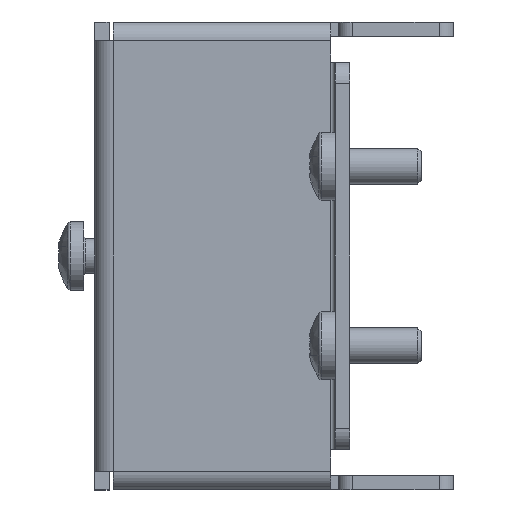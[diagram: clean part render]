
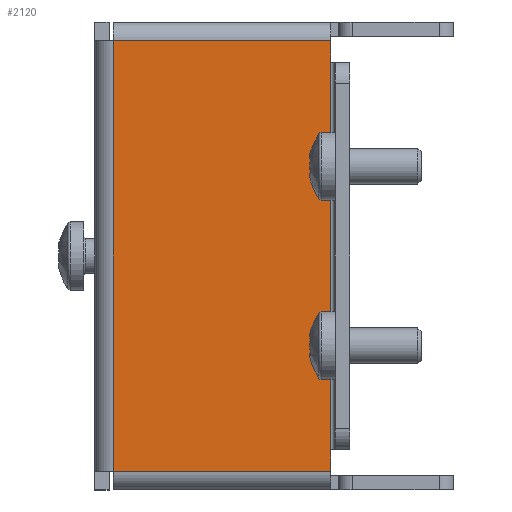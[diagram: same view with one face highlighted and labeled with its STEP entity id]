
A CAD part, left-side view. The second image highlights one B-rep face of the part: STEP entity #2120.
In plain terms, the highlighted planar face has unit normal (-1, 0, 0).
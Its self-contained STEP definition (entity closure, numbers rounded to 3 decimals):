
#16 = LINE ( 'NONE', #927, #1281 ) ;
#142 = VECTOR ( 'NONE', #2471, 1000. ) ;
#158 = LINE ( 'NONE', #2056, #1461 ) ;
#273 = CARTESIAN_POINT ( 'NONE',  ( 22.6, 0.6, 30. ) ) ;
#409 = CARTESIAN_POINT ( 'NONE',  ( 22.6, 0., -30. ) ) ;
#568 = EDGE_CURVE ( 'NONE', #1402, #1505, #2438, .T. ) ;
#643 = DIRECTION ( 'NONE',  ( -1., 0., 0. ) ) ;
#664 = EDGE_CURVE ( 'NONE', #1533, #1990, #1797, .T. ) ;
#758 = DIRECTION ( 'NONE',  ( 0., 0., -1. ) ) ;
#783 = ORIENTED_EDGE ( 'NONE', *, *, #664, .T. ) ;
#792 = DIRECTION ( 'NONE',  ( 0., 0., 1. ) ) ;
#839 = PLANE ( 'NONE',  #1943 ) ;
#856 = ORIENTED_EDGE ( 'NONE', *, *, #1033, .F. ) ;
#899 = EDGE_LOOP ( 'NONE', ( #856, #1595, #2755, #2542, #783, #1643 ) ) ;
#927 = CARTESIAN_POINT ( 'NONE',  ( 22.6, 0.6, 30. ) ) ;
#941 = VERTEX_POINT ( 'NONE', #1085 ) ;
#966 = CARTESIAN_POINT ( 'NONE',  ( 22.6, 0., 30. ) ) ;
#1033 = EDGE_CURVE ( 'NONE', #1402, #2699, #1073, .T. ) ;
#1073 = LINE ( 'NONE', #409, #1825 ) ;
#1085 = CARTESIAN_POINT ( 'NONE',  ( 22.6, 0.6, 27. ) ) ;
#1264 = DIRECTION ( 'NONE',  ( 0., 0., 1. ) ) ;
#1281 = VECTOR ( 'NONE', #792, 1000. ) ;
#1287 = DIRECTION ( 'NONE',  ( 0., 1., 0. ) ) ;
#1402 = VERTEX_POINT ( 'NONE', #1871 ) ;
#1461 = VECTOR ( 'NONE', #2512, 1000. ) ;
#1463 = FACE_OUTER_BOUND ( 'NONE', #899, .T. ) ;
#1505 = VERTEX_POINT ( 'NONE', #2789 ) ;
#1533 = VERTEX_POINT ( 'NONE', #1965 ) ;
#1595 = ORIENTED_EDGE ( 'NONE', *, *, #568, .T. ) ;
#1643 = ORIENTED_EDGE ( 'NONE', *, *, #2238, .T. ) ;
#1645 = CARTESIAN_POINT ( 'NONE',  ( 22.6, 30.9, 30. ) ) ;
#1709 = VECTOR ( 'NONE', #758, 1000. ) ;
#1784 = EDGE_CURVE ( 'NONE', #941, #1533, #16, .T. ) ;
#1797 = LINE ( 'NONE', #966, #142 ) ;
#1825 = VECTOR ( 'NONE', #1287, 1000. ) ;
#1841 = EDGE_CURVE ( 'NONE', #941, #1505, #158, .T. ) ;
#1871 = CARTESIAN_POINT ( 'NONE',  ( 22.6, 0.6, -30. ) ) ;
#1943 = AXIS2_PLACEMENT_3D ( 'NONE', #2173, #643, #1264 ) ;
#1965 = CARTESIAN_POINT ( 'NONE',  ( 22.6, 0.6, 30. ) ) ;
#1990 = VERTEX_POINT ( 'NONE', #1645 ) ;
#2017 = DIRECTION ( 'NONE',  ( 0., 0., 1. ) ) ;
#2056 = CARTESIAN_POINT ( 'NONE',  ( 22.6, 0.6, 30. ) ) ;
#2068 = LINE ( 'NONE', #2714, #1709 ) ;
#2120 = ADVANCED_FACE ( 'NONE', ( #1463 ), #839, .T. ) ;
#2136 = CARTESIAN_POINT ( 'NONE',  ( 22.6, 30.9, -30. ) ) ;
#2173 = CARTESIAN_POINT ( 'NONE',  ( 22.6, 0., 30. ) ) ;
#2230 = VECTOR ( 'NONE', #2017, 1000. ) ;
#2238 = EDGE_CURVE ( 'NONE', #1990, #2699, #2068, .T. ) ;
#2438 = LINE ( 'NONE', #273, #2230 ) ;
#2471 = DIRECTION ( 'NONE',  ( 0., 1., 0. ) ) ;
#2512 = DIRECTION ( 'NONE',  ( 0., 0., -1. ) ) ;
#2542 = ORIENTED_EDGE ( 'NONE', *, *, #1784, .T. ) ;
#2699 = VERTEX_POINT ( 'NONE', #2136 ) ;
#2714 = CARTESIAN_POINT ( 'NONE',  ( 22.6, 30.9, 30. ) ) ;
#2755 = ORIENTED_EDGE ( 'NONE', *, *, #1841, .F. ) ;
#2789 = CARTESIAN_POINT ( 'NONE',  ( 22.6, 0.6, -27. ) ) ;
